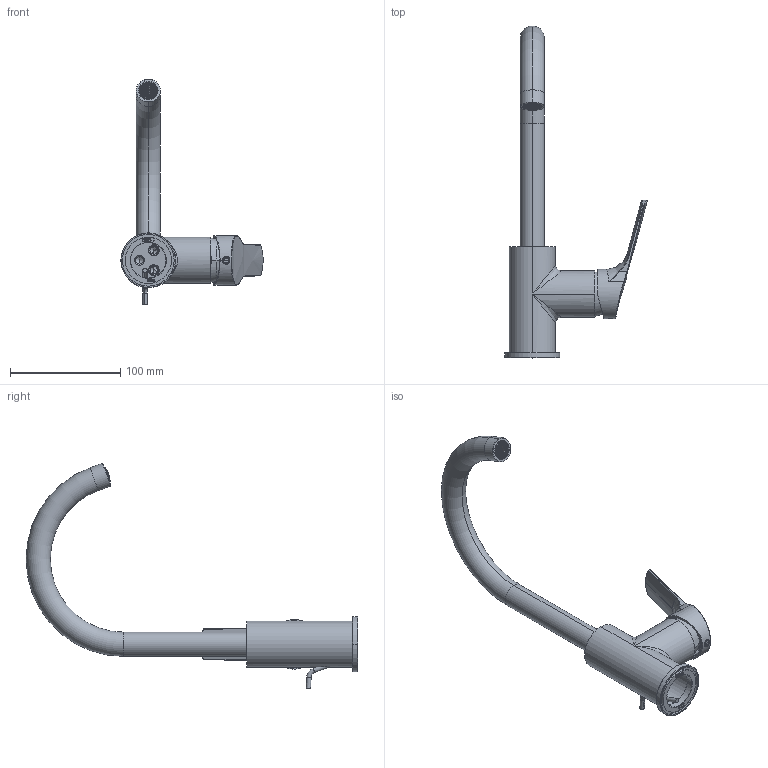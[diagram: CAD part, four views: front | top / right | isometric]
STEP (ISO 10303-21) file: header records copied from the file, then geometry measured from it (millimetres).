
FILE_DESCRIPTION((''),'2;1');
FILE_NAME('F3781W_FILE_3D','2016-09-29T',('ivanv'),(''),'CREO PARAMETRIC BY PTC INC, 2015290','CREO PARAMETRIC BY PTC INC, 2015290','');
FILE_SCHEMA(('CONFIG_CONTROL_DESIGN'));
Length unit declared in the file: millimetre
Products named in the file (1): F3781W_FILE_3D
Bounding box: 129.12 x 301.12 x 204.62 mm (x, y, z)
Volume: 186931.1 mm3; surface area: 103564.5 mm2
Topology: 4 solids, 5 shells, 3728 faces, 10740 edges, 7101 vertices
Faces by surface type: plane 2539, torus 425, cylinder 333, bspline 216, cone 108, extrusion 81, sphere 26
Entity records: 155019 total; most frequent: CARTESIAN_POINT 63224, ORIENTED_EDGE 21432, DIRECTION 15600, EDGE_CURVE 10716, VERTEX_POINT 7101, VECTOR 5286, LINE 5205, AXIS2_PLACEMENT_3D 5157
